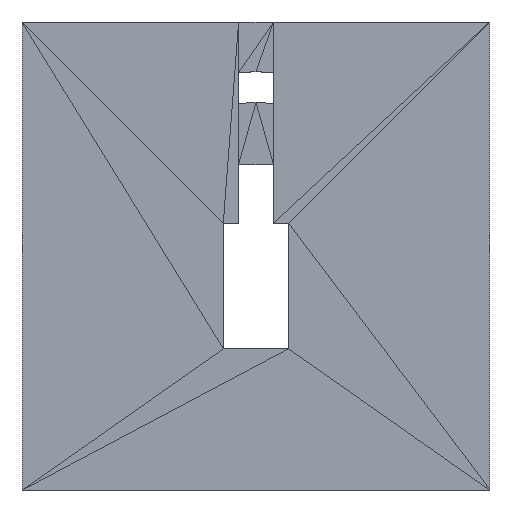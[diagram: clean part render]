
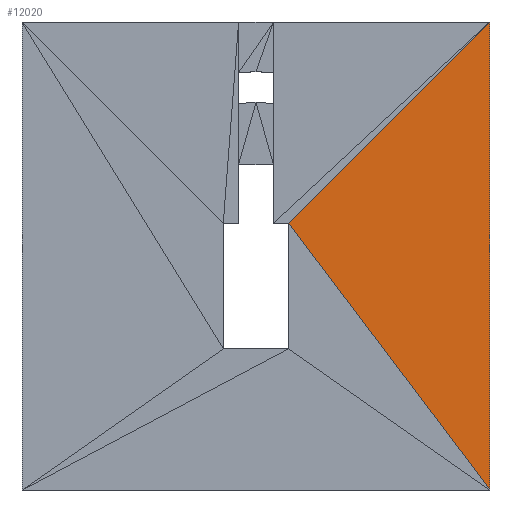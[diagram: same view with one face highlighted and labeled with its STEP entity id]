
A CAD part, front view. The second image highlights one B-rep face of the part: STEP entity #12020.
In plain terms, the highlighted planar face has unit normal (0, -1, 0).
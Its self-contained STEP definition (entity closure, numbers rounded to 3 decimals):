
#780=FACE_OUTER_BOUND('',#1802,.T.);
#1802=EDGE_LOOP('',(#9462,#9463,#9464));
#2815=LINE('',#18407,#4348);
#3332=LINE('',#19440,#4865);
#3334=LINE('',#19443,#4867);
#4348=VECTOR('',#15013,10.);
#4865=VECTOR('',#16118,10.);
#4867=VECTOR('',#16122,10.);
#5406=VERTEX_POINT('',#18380);
#5410=VERTEX_POINT('',#18396);
#5630=VERTEX_POINT('',#19418);
#6390=EDGE_CURVE('',#5410,#5406,#2815,.T.);
#6907=EDGE_CURVE('',#5630,#5406,#3332,.T.);
#6909=EDGE_CURVE('',#5630,#5410,#3334,.T.);
#9462=ORIENTED_EDGE('',*,*,#6909,.T.);
#9463=ORIENTED_EDGE('',*,*,#6390,.T.);
#9464=ORIENTED_EDGE('',*,*,#6907,.F.);
#10998=PLANE('',#13056);
#12020=ADVANCED_FACE('',(#780),#10998,.T.);
#13056=AXIS2_PLACEMENT_3D('',#19442,#16120,#16121);
#15013=DIRECTION('',(0.,0.,1.));
#16118=DIRECTION('',(0.707,0.,0.707));
#16120=DIRECTION('center_axis',(0.,-1.,0.));
#16121=DIRECTION('ref_axis',(0.,0.,-1.));
#16122=DIRECTION('',(0.602,0.,-0.798));
#18380=CARTESIAN_POINT('',(1524.,0.,1524.));
#18396=CARTESIAN_POINT('',(1524.,0.,0.));
#18407=CARTESIAN_POINT('',(1524.,0.,0.));
#19418=CARTESIAN_POINT('',(868.68,0.,868.68));
#19440=CARTESIAN_POINT('',(868.68,0.,868.68));
#19442=CARTESIAN_POINT('Origin',(1524.,0.,1524.));
#19443=CARTESIAN_POINT('',(868.68,0.,868.68));
